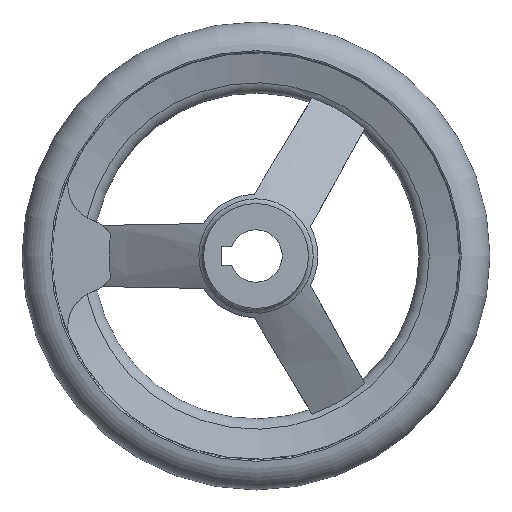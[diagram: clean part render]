
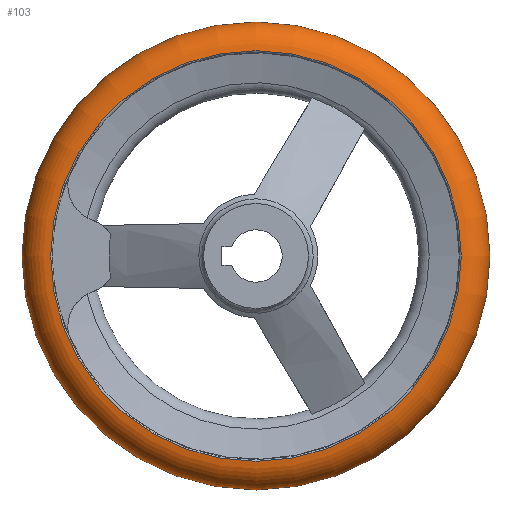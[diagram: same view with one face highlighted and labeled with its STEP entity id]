
A CAD part, left-side view. The second image highlights one B-rep face of the part: STEP entity #103.
In plain terms, the highlighted toroidal (fillet/blend) face has major radius 54.493 mm and minor radius 8.007 mm.
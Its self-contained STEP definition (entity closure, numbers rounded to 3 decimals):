
#103 = ADVANCED_FACE( '', ( #187, #188, #189 ), #190, .T. );
#187 = FACE_BOUND( '', #289, .T. );
#188 = FACE_OUTER_BOUND( '', #290, .T. );
#189 = FACE_OUTER_BOUND( '', #291, .T. );
#190 = TOROIDAL_SURFACE( '', #292, 54.493, 8.007 );
#289 = VERTEX_LOOP( '', #558 );
#290 = EDGE_LOOP( '', ( #559 ) );
#291 = EDGE_LOOP( '', ( #560 ) );
#292 = AXIS2_PLACEMENT_3D( '', #561, #562, #563 );
#558 = VERTEX_POINT( '', #757 );
#559 = ORIENTED_EDGE( '', *, *, #758, .T. );
#560 = ORIENTED_EDGE( '', *, *, #756, .F. );
#561 = CARTESIAN_POINT( '', ( 28., 0., 0. ) );
#562 = DIRECTION( '', ( -1., 0., 0. ) );
#563 = DIRECTION( '', ( 0., -1., 0. ) );
#756 = EDGE_CURVE( '', #933, #933, #934, .T. );
#757 = CARTESIAN_POINT( '', ( 28., -62.5, 0. ) );
#758 = EDGE_CURVE( '', #935, #935, #936, .T. );
#933 = VERTEX_POINT( '', #1503 );
#934 = CIRCLE( '', #1504, 54.833 );
#935 = VERTEX_POINT( '', #1505 );
#936 = CIRCLE( '', #1506, 54.833 );
#1503 = CARTESIAN_POINT( '', ( 20., -54.833, 0. ) );
#1504 = AXIS2_PLACEMENT_3D( '', #1658, #1659, #1660 );
#1505 = CARTESIAN_POINT( '', ( 36., -54.833, 0. ) );
#1506 = AXIS2_PLACEMENT_3D( '', #1661, #1662, #1663 );
#1658 = CARTESIAN_POINT( '', ( 20., 0., 0. ) );
#1659 = DIRECTION( '', ( -1., 0., 0. ) );
#1660 = DIRECTION( '', ( 0., -1., 0. ) );
#1661 = CARTESIAN_POINT( '', ( 36., 0., 0. ) );
#1662 = DIRECTION( '', ( -1., 0., 0. ) );
#1663 = DIRECTION( '', ( 0., -1., 0. ) );
